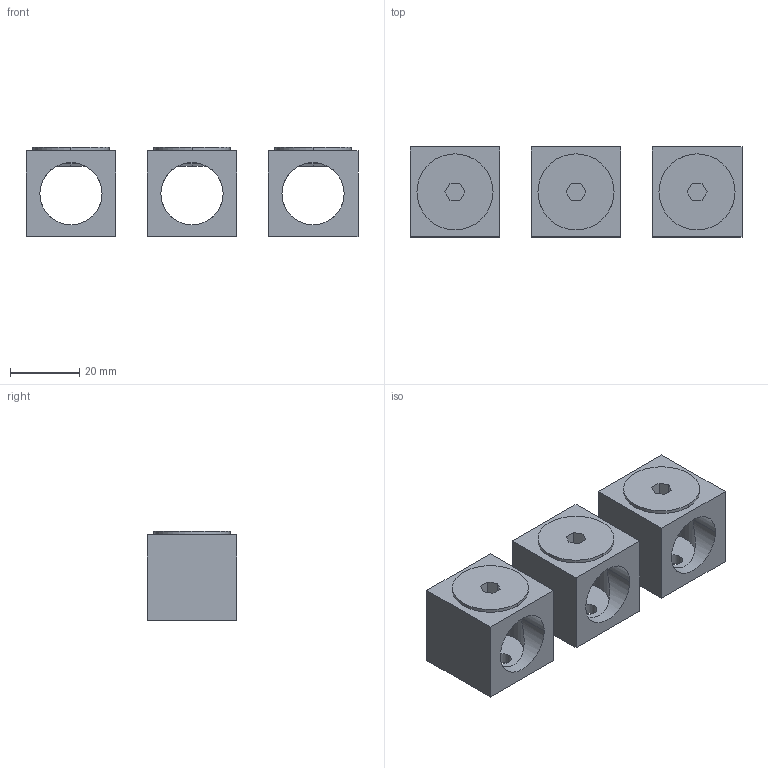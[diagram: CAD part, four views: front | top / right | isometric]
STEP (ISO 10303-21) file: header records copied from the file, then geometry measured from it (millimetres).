
FILE_DESCRIPTION (( 'STEP AP214' ), '1' );
FILE_NAME ('OptiMat E250 êîëîäêè íèæíèå.STEP', '2023-11-09T12:02:51', ( '' ), ( '' ), 'SwSTEP 2.0', 'SolidWorks 2018', '' );
FILE_SCHEMA (( 'AUTOMOTIVE_DESIGN' ));
Length unit declared in the file: millimetre
Products named in the file (5): ____ ____.758211.009_____.758211.009.STEP; OptiMat E250 êîëîäêè íèæíèå; Êîëîäêà ÃÆÈÊ.687229.010.STEP; OptiMat E250   Êîëîäêà ÃÆÈÊ.687229.010; _______ ____.731173.010_____.731173.010.STEP
Assembly tree (6 placements, depth 4):
  OptiMat E250 êîëîäêè íèæíèå
    OptiMat E250   Êîëîäêà ÃÆÈÊ.687229.010  x3
      Êîëîäêà ÃÆÈÊ.687229.010.STEP
        _______ ____.731173.010_____.731173.010.STEP
        ____ ____.758211.009_____.758211.009.STEP
Bounding box: 96 x 26 x 25.78 mm (x, y, z)
Volume: 29196.5 mm3; surface area: 17787.7 mm2
Topology: 6 solids, 6 shells, 87 faces, 222 edges, 144 vertices
Faces by surface type: plane 45, cylinder 30, cone 12
Entity records: 1966 total; most frequent: CARTESIAN_POINT 1074, DIRECTION 166, ORIENTED_EDGE 148, EDGE_CURVE 74, AXIS2_PLACEMENT_3D 60, VERTEX_POINT 48, LINE 46, VECTOR 46
